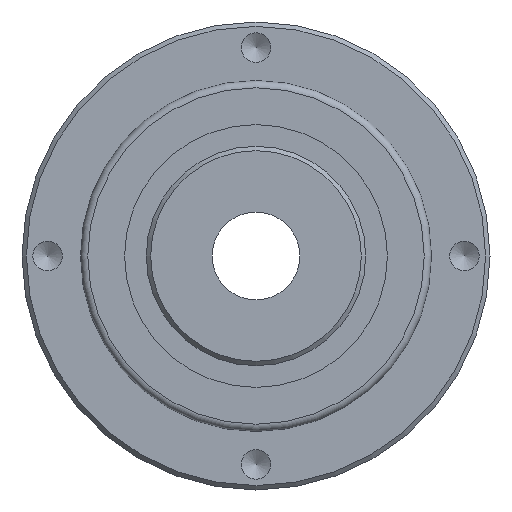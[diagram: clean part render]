
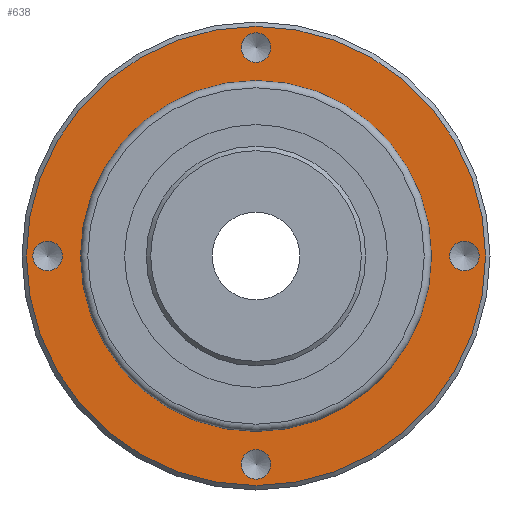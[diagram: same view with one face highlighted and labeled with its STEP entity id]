
A CAD part, left-side view. The second image highlights one B-rep face of the part: STEP entity #638.
In plain terms, the highlighted planar face has unit normal (-1, 0, 0).
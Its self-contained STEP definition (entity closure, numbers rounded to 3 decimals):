
#33=PLANE('',#700);
#67=ORIENTED_EDGE('',*,*,#129,.T.);
#68=ORIENTED_EDGE('',*,*,#130,.T.);
#69=ORIENTED_EDGE('',*,*,#131,.T.);
#70=ORIENTED_EDGE('',*,*,#132,.T.);
#71=ORIENTED_EDGE('',*,*,#133,.F.);
#72=ORIENTED_EDGE('',*,*,#128,.T.);
#128=EDGE_CURVE('',#163,#163,#202,.T.);
#129=EDGE_CURVE('',#164,#164,#203,.T.);
#130=EDGE_CURVE('',#165,#165,#204,.T.);
#131=EDGE_CURVE('',#166,#166,#205,.T.);
#132=EDGE_CURVE('',#167,#167,#206,.T.);
#133=EDGE_CURVE('',#168,#168,#207,.T.);
#163=VERTEX_POINT('',#937);
#164=VERTEX_POINT('',#940);
#165=VERTEX_POINT('',#942);
#166=VERTEX_POINT('',#944);
#167=VERTEX_POINT('',#946);
#168=VERTEX_POINT('',#948);
#202=CIRCLE('',#699,15.7);
#203=CIRCLE('',#701,1.007);
#204=CIRCLE('',#702,1.007);
#205=CIRCLE('',#703,1.007);
#206=CIRCLE('',#704,1.007);
#207=CIRCLE('',#705,12.);
#246=EDGE_LOOP('',(#67));
#247=EDGE_LOOP('',(#68));
#248=EDGE_LOOP('',(#69));
#249=EDGE_LOOP('',(#70));
#250=EDGE_LOOP('',(#71));
#251=EDGE_LOOP('',(#72));
#316=FACE_BOUND('',#246,.T.);
#317=FACE_BOUND('',#247,.T.);
#318=FACE_BOUND('',#248,.T.);
#319=FACE_BOUND('',#249,.T.);
#320=FACE_BOUND('',#250,.T.);
#321=FACE_BOUND('',#251,.T.);
#638=ADVANCED_FACE('',(#316,#317,#318,#319,#320,#321),#33,.F.);
#699=AXIS2_PLACEMENT_3D('',#936,#808,#809);
#700=AXIS2_PLACEMENT_3D('',#938,#810,#811);
#701=AXIS2_PLACEMENT_3D('',#939,#812,#813);
#702=AXIS2_PLACEMENT_3D('',#941,#814,#815);
#703=AXIS2_PLACEMENT_3D('',#943,#816,#817);
#704=AXIS2_PLACEMENT_3D('',#945,#818,#819);
#705=AXIS2_PLACEMENT_3D('',#947,#820,#821);
#808=DIRECTION('',(-1.,0.,0.));
#809=DIRECTION('',(0.,0.,1.));
#810=DIRECTION('',(1.,0.,0.));
#811=DIRECTION('',(0.,0.,-1.));
#812=DIRECTION('',(1.,0.,0.));
#813=DIRECTION('',(0.,0.,-1.));
#814=DIRECTION('',(1.,0.,0.));
#815=DIRECTION('',(0.,0.,-1.));
#816=DIRECTION('',(1.,0.,0.));
#817=DIRECTION('',(0.,0.,-1.));
#818=DIRECTION('',(1.,0.,0.));
#819=DIRECTION('',(0.,0.,-1.));
#820=DIRECTION('',(-1.,0.,0.));
#821=DIRECTION('',(0.,0.,1.));
#936=CARTESIAN_POINT('',(5.,0.,0.));
#937=CARTESIAN_POINT('',(5.,0.,15.7));
#938=CARTESIAN_POINT('',(5.,0.,15.7));
#939=CARTESIAN_POINT('',(5.,-14.25,0.));
#940=CARTESIAN_POINT('',(5.,-14.25,-1.006));
#941=CARTESIAN_POINT('',(5.,0.,-14.25));
#942=CARTESIAN_POINT('',(5.,0.,-15.257));
#943=CARTESIAN_POINT('',(5.,14.25,0.));
#944=CARTESIAN_POINT('',(5.,14.25,-1.007));
#945=CARTESIAN_POINT('',(5.,0.,14.25));
#946=CARTESIAN_POINT('',(5.,0.,13.244));
#947=CARTESIAN_POINT('',(5.,0.,0.));
#948=CARTESIAN_POINT('',(5.,0.,12.));
